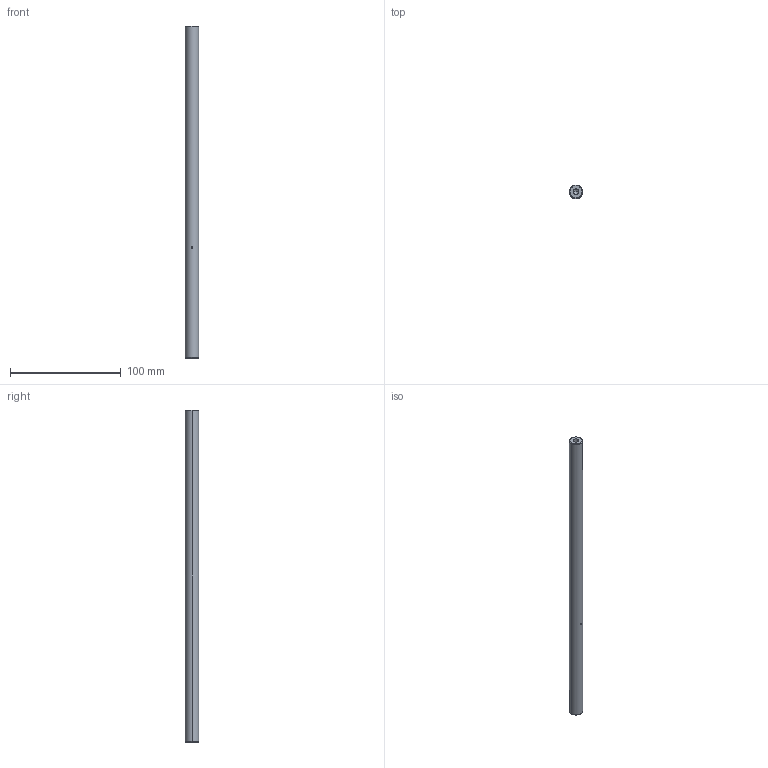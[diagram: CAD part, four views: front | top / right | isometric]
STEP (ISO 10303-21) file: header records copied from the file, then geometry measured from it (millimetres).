
FILE_DESCRIPTION (( 'STEP AP203' ), '1' );
FILE_NAME ('PHSP12-7B.step', '2019-05-09T09:08:30', ( '' ), ( '' ), 'SwSTEP 2.0', 'SolidWorks 2016', '' );
FILE_SCHEMA (( 'CONFIG_CONTROL_DESIGN' ));
Length unit declared in the file: millimetre
Products named in the file (1): PHSP12-7B
Bounding box: 12 x 12 x 300 mm (x, y, z)
Volume: 33505.3 mm3; surface area: 11911 mm2
Topology: 1 solids, 1 shells, 18 faces, 40 edges, 22 vertices
Faces by surface type: cylinder 8, cone 8, plane 2
Entity records: 597 total; most frequent: CARTESIAN_POINT 133, DIRECTION 86, ORIENTED_EDGE 72, EDGE_CURVE 36, AXIS2_PLACEMENT_3D 35, EDGE_LOOP 22, VERTEX_POINT 22, FACE_OUTER_BOUND 18
